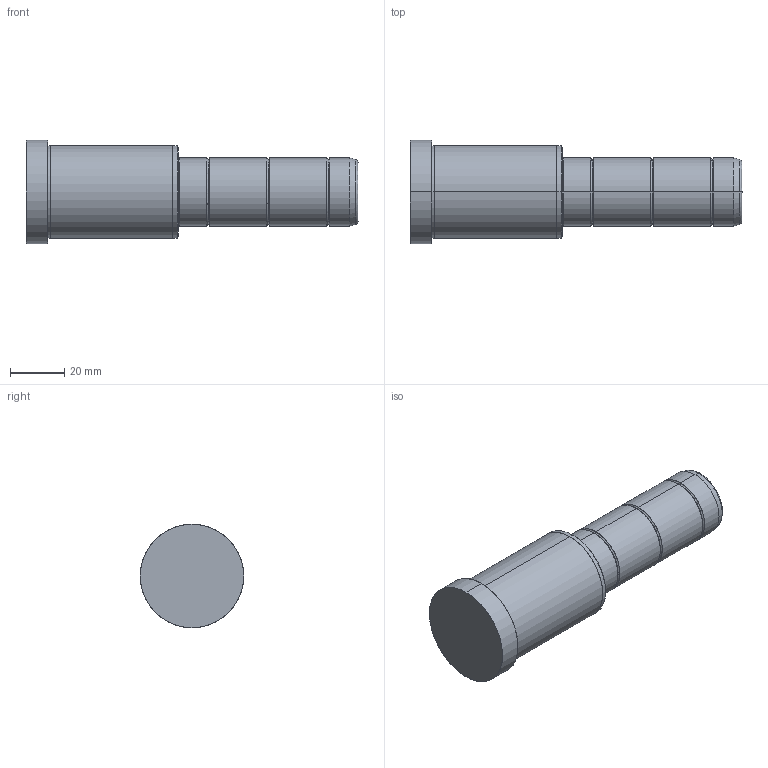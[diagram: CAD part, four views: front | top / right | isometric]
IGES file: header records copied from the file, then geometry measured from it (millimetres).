
Start section: SolidWorks IGES file using analytic representation for surfaces
Global section: file name: C:\Documents and Settings\kalite-mail\Desktop\IGS\D02\25\D02 - 25x56x66.IGS; native system: SolidWorks 2008; preprocessor: SolidWorks 2008; author: kalite-mail; date: 080616.173602; units: millimetre
Bounding box: 122 x 38 x 38 mm (x, y, z)
Surface area: 13538.2 mm2 (no closed solid volume)
Topology: 0 solids, 0 shells, 42 faces, 720 edges, 720 vertices
Faces by surface type: bspline 22, revolution 20
